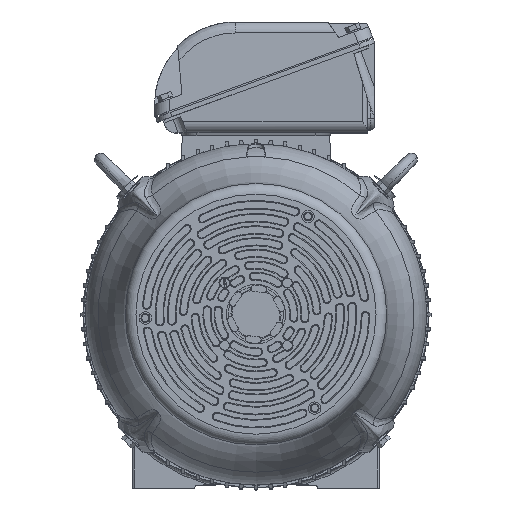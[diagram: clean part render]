
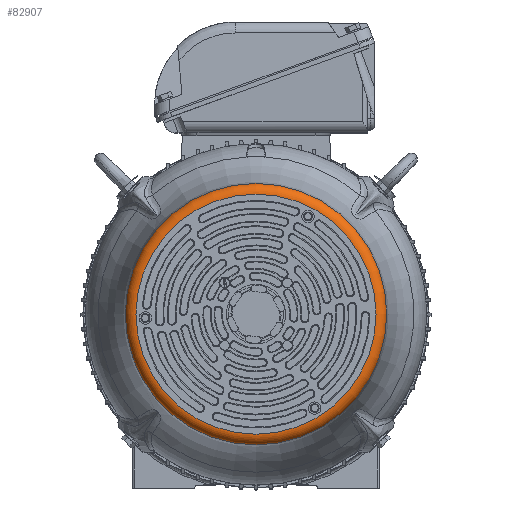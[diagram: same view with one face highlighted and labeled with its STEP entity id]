
A CAD part, top view. The second image highlights one B-rep face of the part: STEP entity #82907.
In plain terms, the highlighted toroidal (fillet/blend) face has major radius 156 mm and minor radius 14 mm.
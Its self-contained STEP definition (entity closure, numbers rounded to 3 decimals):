
#5182=TOROIDAL_SURFACE('',#89411,156.,14.);
#9637=FACE_OUTER_BOUND('',#14469,.T.);
#14469=EDGE_LOOP('',(#61365,#61366,#61367,#61368,#61369,#61370));
#19252=CIRCLE('',#89140,156.);
#19253=CIRCLE('',#89141,156.);
#19427=CIRCLE('',#89409,170.);
#19428=CIRCLE('',#89410,170.);
#19429=CIRCLE('',#89412,14.);
#34849=VERTEX_POINT('',#149680);
#34850=VERTEX_POINT('',#149681);
#34939=VERTEX_POINT('',#150283);
#34940=VERTEX_POINT('',#150285);
#44320=EDGE_CURVE('',#34849,#34850,#19252,.T.);
#44321=EDGE_CURVE('',#34850,#34849,#19253,.T.);
#44570=EDGE_CURVE('',#34939,#34940,#19427,.T.);
#44571=EDGE_CURVE('',#34940,#34939,#19428,.T.);
#44572=EDGE_CURVE('',#34939,#34850,#19429,.T.);
#61365=ORIENTED_EDGE('',*,*,#44571,.F.);
#61366=ORIENTED_EDGE('',*,*,#44570,.F.);
#61367=ORIENTED_EDGE('',*,*,#44572,.T.);
#61368=ORIENTED_EDGE('',*,*,#44321,.T.);
#61369=ORIENTED_EDGE('',*,*,#44320,.T.);
#61370=ORIENTED_EDGE('',*,*,#44572,.F.);
#82907=ADVANCED_FACE('',(#9637),#5182,.T.);
#89140=AXIS2_PLACEMENT_3D('',#149682,#102682,#102683);
#89141=AXIS2_PLACEMENT_3D('',#149683,#102684,#102685);
#89409=AXIS2_PLACEMENT_3D('',#150286,#103273,#103274);
#89410=AXIS2_PLACEMENT_3D('',#150287,#103275,#103276);
#89411=AXIS2_PLACEMENT_3D('',#150288,#103277,#103278);
#89412=AXIS2_PLACEMENT_3D('',#150289,#103279,#103280);
#102682=DIRECTION('center_axis',(0.,0.,
-1.));
#102683=DIRECTION('ref_axis',(0.,1.,0.));
#102684=DIRECTION('center_axis',(0.,0.,
-1.));
#102685=DIRECTION('ref_axis',(0.,1.,0.));
#103273=DIRECTION('center_axis',(0.,0.,
-1.));
#103274=DIRECTION('ref_axis',(0.,1.,0.));
#103275=DIRECTION('center_axis',(0.,0.,
-1.));
#103276=DIRECTION('ref_axis',(0.,1.,0.));
#103277=DIRECTION('center_axis',(0.,0.,
-1.));
#103278=DIRECTION('ref_axis',(0.,1.,0.));
#103279=DIRECTION('center_axis',(-1.,0.,0.));
#103280=DIRECTION('ref_axis',(0.,-1.,0.));
#149680=CARTESIAN_POINT('',(0.,156.,896.764));
#149681=CARTESIAN_POINT('',(0.,-156.,896.764));
#149682=CARTESIAN_POINT('Origin',(0.,0.,
896.764));
#149683=CARTESIAN_POINT('Origin',(0.,0.,
896.764));
#150283=CARTESIAN_POINT('',(0.,-170.,882.764));
#150285=CARTESIAN_POINT('',(0.,170.,882.764));
#150286=CARTESIAN_POINT('Origin',(0.,0.,
882.764));
#150287=CARTESIAN_POINT('Origin',(0.,0.,
882.764));
#150288=CARTESIAN_POINT('Origin',(0.,0.,
882.764));
#150289=CARTESIAN_POINT('Origin',(0.,-156.,
882.764));
